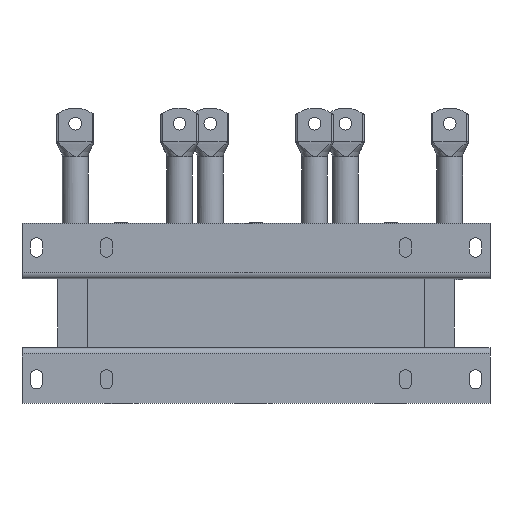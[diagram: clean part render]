
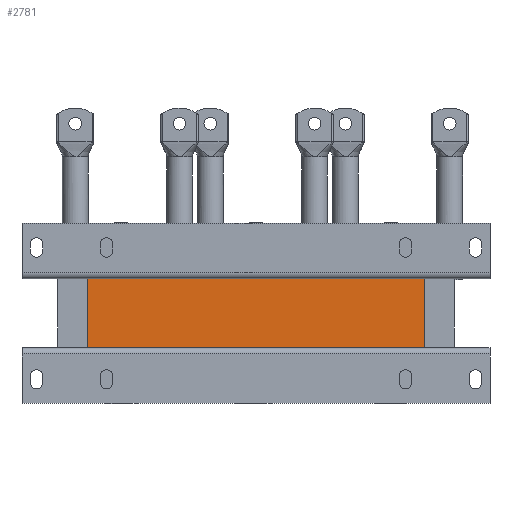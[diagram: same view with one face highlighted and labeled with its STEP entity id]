
A CAD part, front view. The second image highlights one B-rep face of the part: STEP entity #2781.
In plain terms, the highlighted planar face has unit normal (0, -1, 0).
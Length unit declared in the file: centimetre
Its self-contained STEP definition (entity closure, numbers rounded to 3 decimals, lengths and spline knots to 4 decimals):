
#500 = ORIENTED_EDGE ( 'NONE', *, *, #3172, .F. ) ;
#758 = VERTEX_POINT ( 'NONE', #1031 ) ;
#1031 = CARTESIAN_POINT ( 'NONE',  ( -14., 0.7, -2.865 ) ) ;
#1558 = FACE_OUTER_BOUND ( 'NONE', #12097, .T. ) ;
#2323 = DIRECTION ( 'NONE',  ( 1., 0., 0. ) ) ;
#2564 = DIRECTION ( 'NONE',  ( 1., 0., 0. ) ) ;
#2664 = VERTEX_POINT ( 'NONE', #8723 ) ;
#2781 = ADVANCED_FACE ( 'NONE', ( #1558 ), #8801, .F. ) ;
#2839 = VERTEX_POINT ( 'NONE', #3017 ) ;
#2908 = VECTOR ( 'NONE', #3698, 100. ) ;
#3017 = CARTESIAN_POINT ( 'NONE',  ( 14., 0.7, -2.865 ) ) ;
#3172 = EDGE_CURVE ( 'NONE', #15177, #2839, #15233, .T. ) ;
#3479 = CARTESIAN_POINT ( 'NONE',  ( 14., 0.7, -2.865 ) ) ;
#3698 = DIRECTION ( 'NONE',  ( 0., 0., -1. ) ) ;
#4737 = EDGE_CURVE ( 'NONE', #2664, #15177, #4861, .T. ) ;
#4773 = VECTOR ( 'NONE', #2564, 100. ) ;
#4861 = LINE ( 'NONE', #8761, #4773 ) ;
#4996 = VECTOR ( 'NONE', #13794, 100. ) ;
#6187 = DIRECTION ( 'NONE',  ( -1., 0., 0. ) ) ;
#6526 = DIRECTION ( 'NONE',  ( 0., 1., 0. ) ) ;
#6619 = EDGE_CURVE ( 'NONE', #758, #2839, #13537, .T. ) ;
#7565 = ORIENTED_EDGE ( 'NONE', *, *, #4737, .F. ) ;
#8628 = VECTOR ( 'NONE', #2323, 100. ) ;
#8723 = CARTESIAN_POINT ( 'NONE',  ( -14., 0.7, 2.865 ) ) ;
#8761 = CARTESIAN_POINT ( 'NONE',  ( 14., 0.7, 2.865 ) ) ;
#8801 = PLANE ( 'NONE',  #15962 ) ;
#9841 = CARTESIAN_POINT ( 'NONE',  ( 14., 0.7, 2.865 ) ) ;
#12097 = EDGE_LOOP ( 'NONE', ( #13189, #500, #7565, #16137 ) ) ;
#12584 = CARTESIAN_POINT ( 'NONE',  ( 14., 0.7, 31.5218 ) ) ;
#13189 = ORIENTED_EDGE ( 'NONE', *, *, #6619, .T. ) ;
#13293 = EDGE_CURVE ( 'NONE', #2664, #758, #16010, .T. ) ;
#13537 = LINE ( 'NONE', #3479, #8628 ) ;
#13683 = CARTESIAN_POINT ( 'NONE',  ( 14., 0.7, 31.5218 ) ) ;
#13794 = DIRECTION ( 'NONE',  ( 0., 0., -1. ) ) ;
#15177 = VERTEX_POINT ( 'NONE', #9841 ) ;
#15233 = LINE ( 'NONE', #13683, #2908 ) ;
#15962 = AXIS2_PLACEMENT_3D ( 'NONE', #12584, #6526, #6187 ) ;
#16010 = LINE ( 'NONE', #16090, #4996 ) ;
#16090 = CARTESIAN_POINT ( 'NONE',  ( -14., 0.7, 31.5218 ) ) ;
#16137 = ORIENTED_EDGE ( 'NONE', *, *, #13293, .T. ) ;
